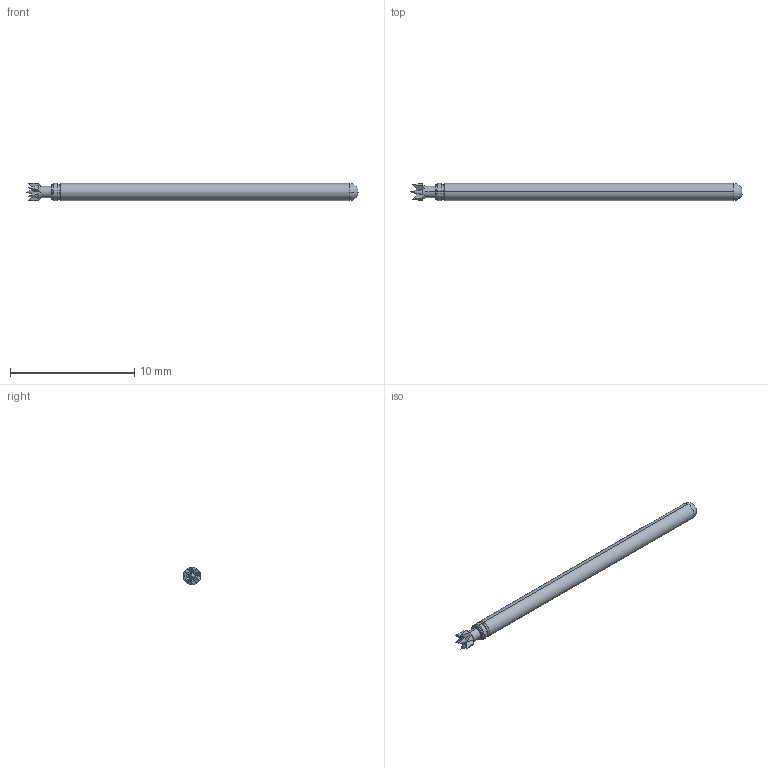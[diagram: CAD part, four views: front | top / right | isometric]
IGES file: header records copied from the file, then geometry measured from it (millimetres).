
Start section: SolidWorks IGES file using analytic representation for surfaces
Global section: file name: Z:\probe solid model mockups\Solidworks models\POGO-25 IGS files\POGO-25V Full.IGS; native system: SolidWorks 2006 by SolidWorks Corporation; preprocessor: SolidWorks 2006 by SolidWorks Corporation; author: tsakatani; date: 071214.093705; units: inch
Bounding box: 26.67 x 1.37 x 1.4 mm (x, y, z)
Surface area: 115.5 mm2 (no closed solid volume)
Topology: 0 solids, 0 shells, 43 faces, 274 edges, 272 vertices
Faces by surface type: revolution 25, bspline 18
